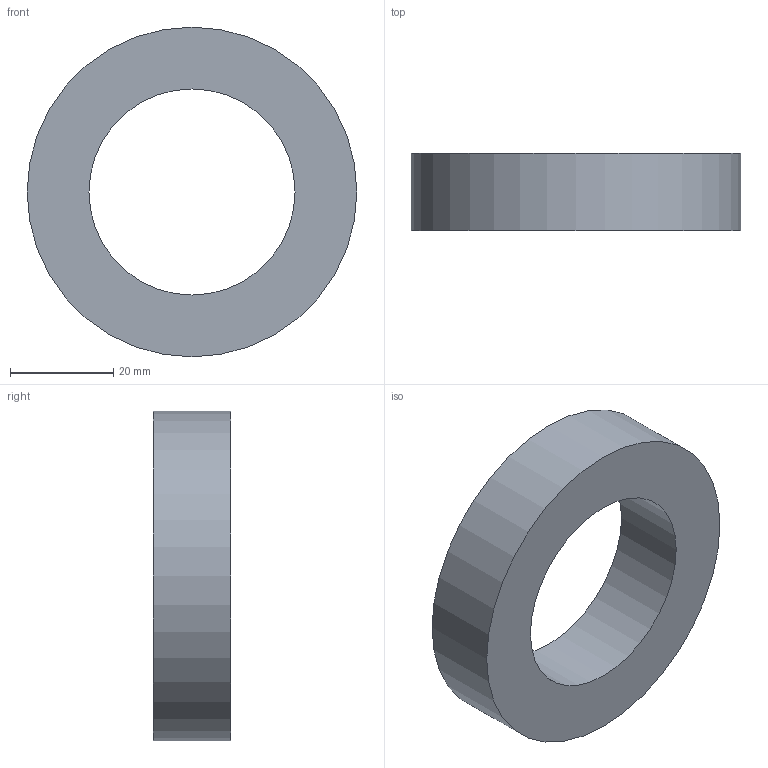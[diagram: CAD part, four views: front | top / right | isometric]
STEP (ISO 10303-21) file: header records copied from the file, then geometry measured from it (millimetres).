
FILE_DESCRIPTION (( 'STEP AP214' ), '1' );
FILE_NAME ('10FF.064.004.15NR.STEP', '2026-03-25T15:12:40', ( '' ), ( '' ), 'SwSTEP 2.0', 'SolidWorks 2025', '' );
FILE_SCHEMA (( 'AUTOMOTIVE_DESIGN' ));
Length unit declared in the file: millimetre
Products named in the file (1): 10FF.064.004.15NR
Bounding box: 64 x 15 x 64 mm (x, y, z)
Volume: 29405.3 mm3; surface area: 8821.6 mm2
Topology: 1 solids, 1 shells, 4 faces, 6 edges, 4 vertices
Faces by surface type: plane 2, cylinder 2
Full cylindrical faces by diameter (mm): 40 x1, 64 x1
Entity records: 111 total; most frequent: DIRECTION 18, CARTESIAN_POINT 13, AXIS2_PLACEMENT_3D 9, EDGE_LOOP 8, ORIENTED_EDGE 8, FACE_OUTER_BOUND 6, CIRCLE 4, EDGE_CURVE 4
